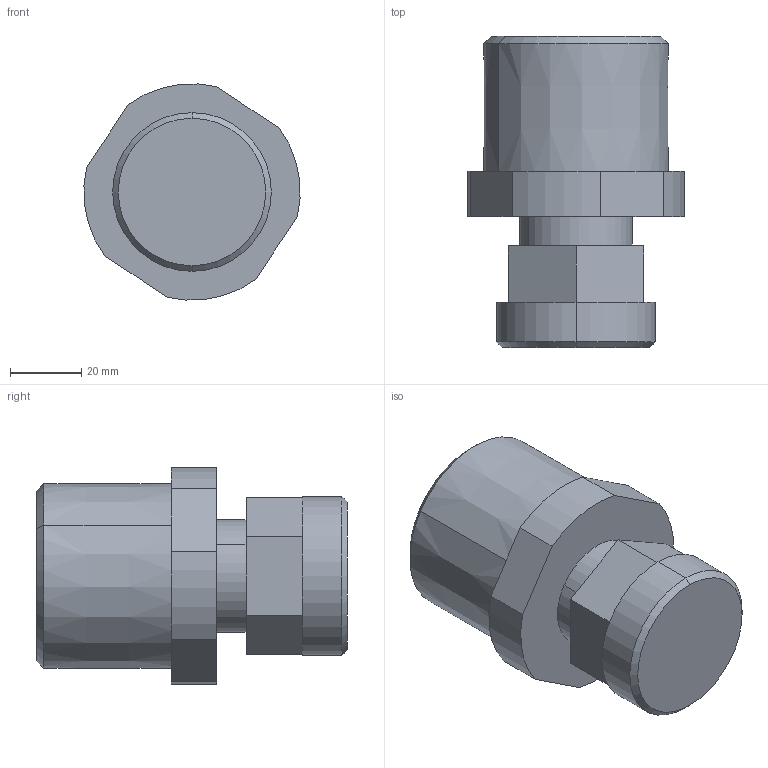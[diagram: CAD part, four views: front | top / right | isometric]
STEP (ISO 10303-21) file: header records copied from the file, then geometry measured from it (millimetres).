
FILE_DESCRIPTION (( 'STEP AP214' ), '1' );
FILE_NAME ('20-pillar-s-300-with-top-mount-adapter.STEP', '2012-11-27T20:29:25', ( '' ), ( '' ), 'SwSTEP 2.0', 'SolidWorks 2012', '' );
FILE_SCHEMA (( 'AUTOMOTIVE_DESIGN' ));
Length unit declared in the file: inch
Products named in the file (1): 20-pillar-s-300-with-top-mount-adapter
Bounding box: 60.86 x 87.57 x 60.86 mm (x, y, z)
Volume: 130678.7 mm3; surface area: 24942.4 mm2
Topology: 1 solids, 1 shells, 36 faces, 80 edges, 52 vertices
Faces by surface type: plane 18, cylinder 12, cone 6
Entity records: 1083 total; most frequent: DIRECTION 186, CARTESIAN_POINT 169, ORIENTED_EDGE 160, EDGE_CURVE 80, AXIS2_PLACEMENT_3D 69, VERTEX_POINT 52, LINE 48, VECTOR 48
